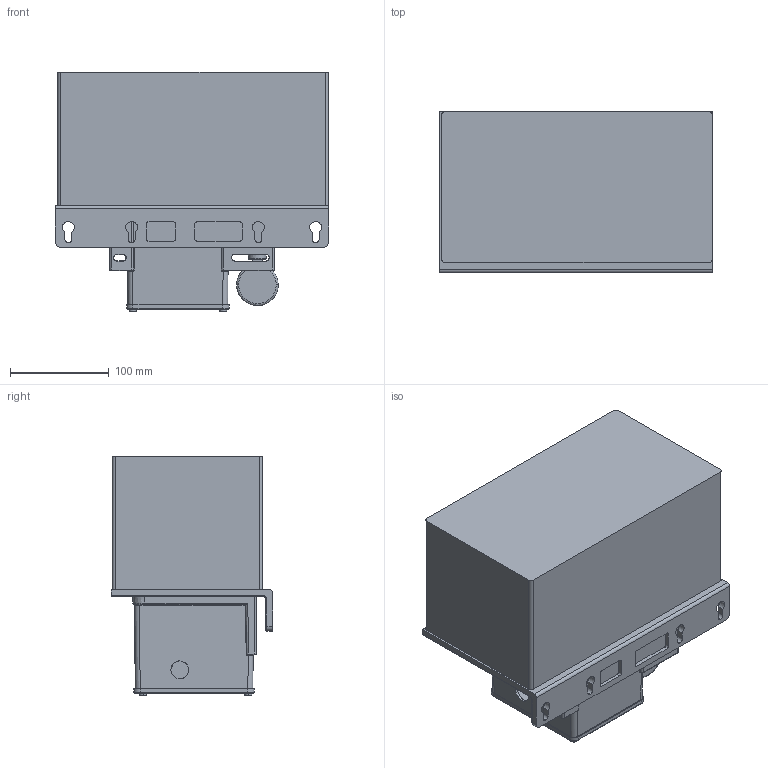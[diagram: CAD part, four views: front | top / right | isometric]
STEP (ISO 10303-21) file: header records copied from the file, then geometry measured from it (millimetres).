
FILE_DESCRIPTION (( 'STEP AP203' ), '1' );
FILE_NAME ('ADL带控制抵坑式4L.STEP', '2020-04-13T05:42:09', ( '个人用户' ), ( '微软中国' ), 'SwSTEP 2.0', 'SolidWorks 2018', '' );
FILE_SCHEMA (( 'CONFIG_CONTROL_DESIGN' ));
Length unit declared in the file: millimetre
Products named in the file (1): ADL湍諷秶萋諧宒4L
Bounding box: 276 x 163 x 242.32 mm (x, y, z)
Surface area: 342381.7 mm2 (no closed solid volume)
Topology: 0 solids, 43 shells, 549 faces, 2180 edges, 1646 vertices
Faces by surface type: plane 237, cylinder 160, bspline 85, cone 49, sphere 14, torus 4
Entity records: 30935 total; most frequent: CARTESIAN_POINT 13735, DIRECTION 3308, ORIENTED_EDGE 3256, EDGE_CURVE 2179, VERTEX_POINT 1646, LINE 1122, VECTOR 1122, AXIS2_PLACEMENT_3D 1093
